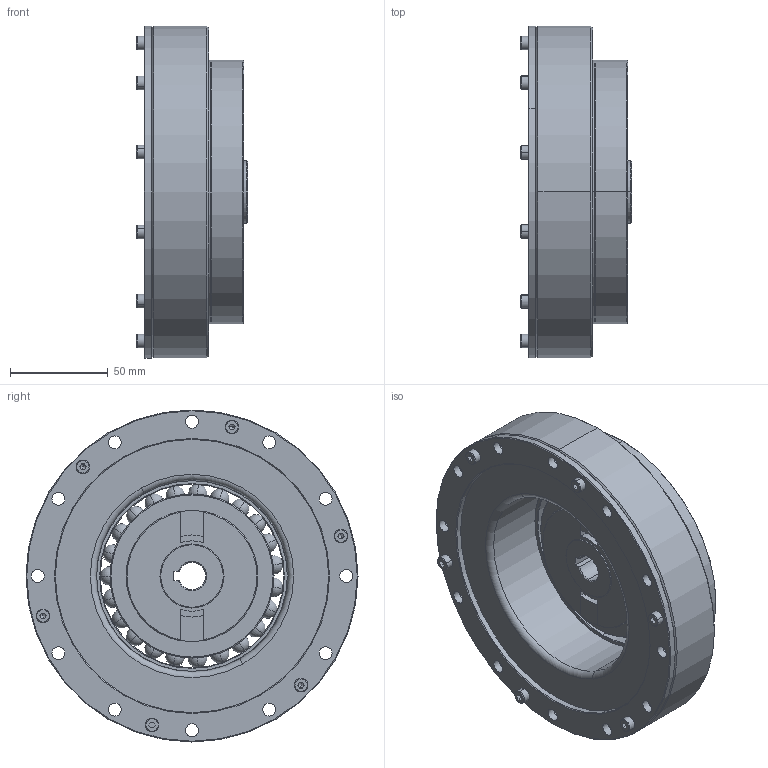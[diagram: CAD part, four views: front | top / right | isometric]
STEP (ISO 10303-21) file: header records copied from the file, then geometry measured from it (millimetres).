
FILE_DESCRIPTION (( 'STEP AP203' ), '1' );
FILE_NAME ('BHS-40-XXX-U-¢ò.STEP', '2019-01-15T05:51:38', ( 'User' ), ( 'China' ), 'SwSTEP 2.0', 'SolidWorks 2015', '' );
FILE_SCHEMA (( 'CONFIG_CONTROL_DESIGN' ));
Length unit declared in the file: millimetre
Products named in the file (1): BHS-40-XXX-U-ｊ
Bounding box: 57 x 170 x 170 mm (x, y, z)
Surface area: 141631.9 mm2 (no closed solid volume)
Topology: 0 solids, 53 shells, 424 faces, 1240 edges, 826 vertices
Faces by surface type: cylinder 164, plane 114, cone 84, sphere 46, torus 14, bspline 2
Entity records: 13310 total; most frequent: DIRECTION 2526, CARTESIAN_POINT 2363, ORIENTED_EDGE 1881, EDGE_CURVE 1107, AXIS2_PLACEMENT_3D 1016, VERTEX_POINT 757, CIRCLE 593, EDGE_LOOP 544
